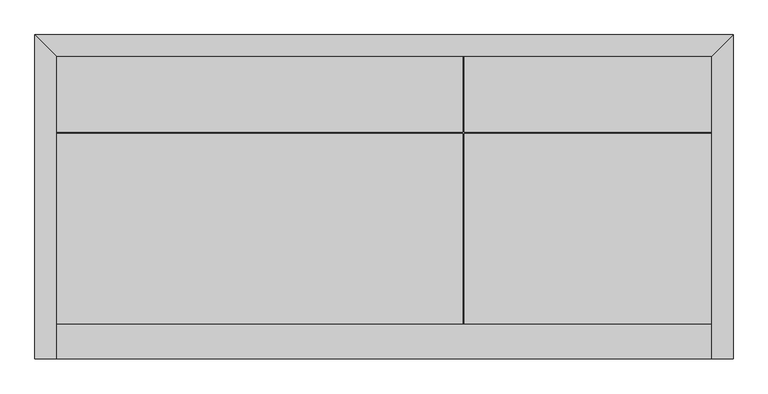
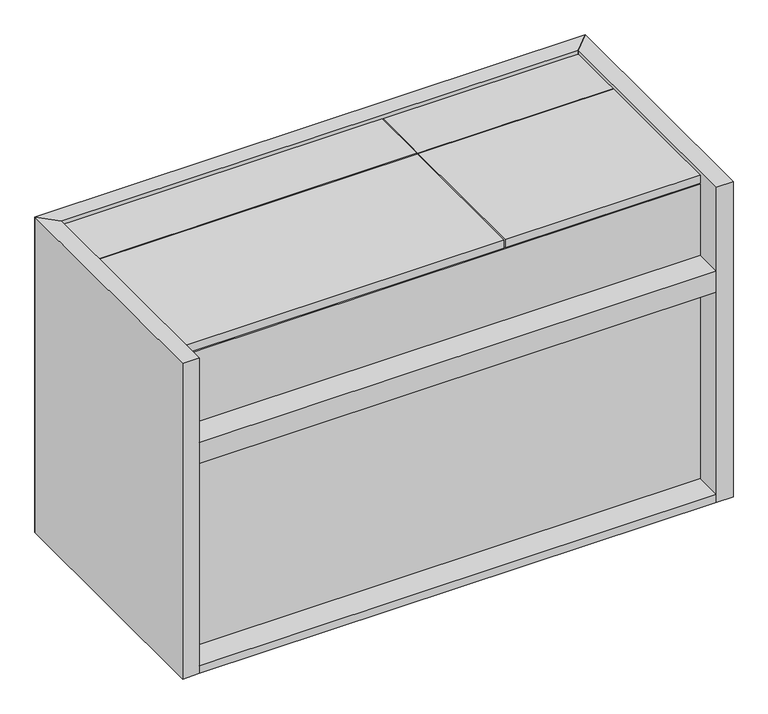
"""IFC4 building model written with IfcOpenShell, lengths in millimetres: proxy geometry, AERO^OFFICE 3_30x48x23 RIGHT PED-PARTS SOLID."""

import ifcopenshell
import ifcopenshell.guid

model = None  # the IFC model being written
_history = None  # IfcOwnerHistory: only IFC2X3 demands one
_inside = {}  # id of a spatial element -> (the spatial element, [elements in it])
_under = {}  # id of a project, library or spatial element -> (it, [spatial elements below it])
_declared = {}  # id of a project -> (the project, [libraries it declares])
_typed = {}  # id of a type object -> (the type object, [elements of that type])
_made_of = {}  # id of a material, layer set ... -> (it, [elements and type objects made of it])


def new_model(schema):
    """Start an empty IFC model of exactly this schema.

    Asked for "IFC4X3", IfcOpenShell would pick the latest addendum, in which some entities
    have other attributes; the version numbers below select the first issue.
    IFC2X3 requires an IfcOwnerHistory on every rooted entity: one is made here for all.
    """
    global model, _history
    if schema == "IFC4X3":
        model = ifcopenshell.file(schema_version=(4, 3, 0, 0))
    else:
        model = ifcopenshell.file(schema=schema)
    _inside.clear()
    _under.clear()
    _declared.clear()
    _typed.clear()
    _made_of.clear()
    _history = None
    if model.schema == "IFC2X3":
        org = make("IfcOrganization", Name="unknown")
        user = make(
            "IfcPersonAndOrganization",
            ThePerson=make("IfcPerson", FamilyName="unknown"),
            TheOrganization=org,
        )
        app = make(
            "IfcApplication",
            ApplicationDeveloper=org,
            Version="unknown",
            ApplicationFullName="unknown",
            ApplicationIdentifier="unknown",
        )
        _history = make(
            "IfcOwnerHistory",
            OwningUser=user,
            OwningApplication=app,
            ChangeAction="ADDED",
            CreationDate=0,
        )
    return model


def make(cls, **values):
    """One entity of the class cls with the attributes given. An attribute that is None is left unset."""
    return model.create_entity(
        cls, **{name: value for name, value in values.items() if value is not None}
    )


def rooted(cls, **values):
    """An entity with a GlobalId (a new one), such as an element, a storey or a relation."""
    return make(cls, GlobalId=ifcopenshell.guid.new(), OwnerHistory=_history, **values)


def si_unit(unit_type, name, prefix=None):
    """IfcSIUnit, for example si_unit("LENGTHUNIT", "METRE", prefix="MILLI")."""
    return make("IfcSIUnit", UnitType=unit_type, Prefix=prefix, Name=name)


def assignment(units):
    """IfcUnitAssignment: the units of a project."""
    return None if units is None else make("IfcUnitAssignment", Units=units)


def point(xyz):
    """IfcCartesianPoint."""
    return None if xyz is None else make("IfcCartesianPoint", Coordinates=xyz)


def direction(xyz):
    """IfcDirection."""
    return None if xyz is None else make("IfcDirection", DirectionRatios=xyz)


def frame(location, z_axis=None, x_axis=None):
    """IfcAxis2Placement3D, a coordinate frame: its origin and axes. An axis left out is left unset."""
    return make(
        "IfcAxis2Placement3D",
        Location=point(location),
        Axis=direction(z_axis),
        RefDirection=direction(x_axis),
    )


def origin():
    """The frame at (0, 0, 0) with its axes left unset."""
    return frame((0.0, 0.0, 0.0))


def origin_with_axes():
    """The frame at (0, 0, 0) with the z axis (0, 0, 1) and the x axis (1, 0, 0) written out."""
    return frame((0.0, 0.0, 0.0), z_axis=(0.0, 0.0, 1.0), x_axis=(1.0, 0.0, 0.0))


def place(relative_to, where):
    """IfcLocalPlacement: puts the frame where relative to a parent placement (None: the world)."""
    return make(
        "IfcLocalPlacement", PlacementRelTo=relative_to, RelativePlacement=where
    )


def context(
    kind, dimensions, precision=None, world=None, true_north=None, identifier=None
):
    """IfcGeometricRepresentationContext, for example the 3D "Model" context."""
    return make(
        "IfcGeometricRepresentationContext",
        ContextIdentifier=identifier,
        ContextType=kind,
        CoordinateSpaceDimension=dimensions,
        Precision=precision,
        WorldCoordinateSystem=world,
        TrueNorth=true_north,
    )


def project(units=None, contexts=None):
    """IfcProject with its units and contexts."""
    return rooted(
        "IfcProject",
        Name="project",
        RepresentationContexts=contexts,
        UnitsInContext=assignment(units),
    )


def spatial(cls, under=None, at=None, **own):
    """A site, building, storey or space (cls), placed at a placement, below another one or the project."""
    s = rooted(cls, ObjectPlacement=at, **own)
    if under is not None:
        _under.setdefault(under.id(), (under, []))[1].append(s)
    return s


def polyline(points):
    """IfcPolyline through the points."""
    return make("IfcPolyline", Points=[point(p) for p in points])


def outline(outer, holes=None, kind="AREA"):
    """IfcArbitraryClosedProfileDef: a profile drawn as a closed curve; with holes, ...WithVoids."""
    if holes is None:
        return make("IfcArbitraryClosedProfileDef", ProfileType=kind, OuterCurve=outer)
    return make(
        "IfcArbitraryProfileDefWithVoids",
        ProfileType=kind,
        OuterCurve=outer,
        InnerCurves=holes,
    )


def extrude(swept, where, along, depth):
    """IfcExtrudedAreaSolid: the profile swept, set in the frame where, extruded along a direction by depth."""
    return make(
        "IfcExtrudedAreaSolid",
        SweptArea=swept,
        Position=where,
        ExtrudedDirection=direction(along),
        Depth=depth,
    )


def shape(context_of_items, identifier, shape_type, items):
    """IfcShapeRepresentation: the items that make up one representation, for example the "Body"."""
    return make(
        "IfcShapeRepresentation",
        ContextOfItems=context_of_items,
        RepresentationIdentifier=identifier,
        RepresentationType=shape_type,
        Items=items,
    )


def source(mapping_origin, context_of_items, identifier, shape_type, items):
    """IfcRepresentationMap: a shape defined once, which mapped items show again and again."""
    return make(
        "IfcRepresentationMap",
        MappingOrigin=mapping_origin,
        MappedRepresentation=shape(context_of_items, identifier, shape_type, items),
    )


def transform(
    local_origin,
    x_axis=None,
    y_axis=None,
    z_axis=None,
    scale=None,
    scale2=None,
    scale3=None,
    uniform=True,
):
    """IfcCartesianTransformationOperator3D, or its non-uniform kind. x_axis, y_axis, z_axis: its Axis1, 2, 3."""
    if uniform:
        return make(
            "IfcCartesianTransformationOperator3D",
            Axis1=direction(x_axis),
            Axis2=direction(y_axis),
            LocalOrigin=point(local_origin),
            Scale=scale,
            Axis3=direction(z_axis),
        )
    return make(
        "IfcCartesianTransformationOperator3DnonUniform",
        Axis1=direction(x_axis),
        Axis2=direction(y_axis),
        LocalOrigin=point(local_origin),
        Scale=scale,
        Axis3=direction(z_axis),
        Scale2=scale2,
        Scale3=scale3,
    )


def mapped(mapping_source, mapping_target):
    """IfcMappedItem: shows the shape of a source again, moved by a transform."""
    return make(
        "IfcMappedItem", MappingSource=mapping_source, MappingTarget=mapping_target
    )


def made_of(thing, what):
    """Note that an element or type object is made of a material, layer set ...; save() writes the relation."""
    if what is not None:
        _made_of.setdefault(what.id(), (what, []))[1].append(thing)
    return thing


def element(
    cls,
    number,
    at=None,
    inside=None,
    cuts=None,
    type_object=None,
    material=None,
    context=None,
    identifier="Body",
    shape_type=None,
    held_by="IfcProductDefinitionShape",
    body=None,
    shapes=None,
    **own,
):
    """One element of the class cls, such as IfcWall. Its Tag is "e" and its number.

    at: its placement. inside: the storey or other place that contains it. cuts: it is an
    opening in that element (IfcRelVoidsElement). A single representation is given by context,
    identifier, shape_type and body (its items); several are given by shapes. held_by: the class
    of the entity that holds the representations. save() writes the other relations.
    """
    e = rooted(cls, Tag="e%d" % number, ObjectPlacement=at, **own)
    if body is not None:
        shapes = [shape(context, identifier, shape_type, body)]
    if shapes is not None:
        e.Representation = make(held_by, Representations=shapes)
    if inside is not None:
        _inside.setdefault(inside.id(), (inside, []))[1].append(e)
    if cuts is not None:
        rooted(
            "IfcRelVoidsElement", RelatingBuildingElement=cuts, RelatedOpeningElement=e
        )
    if type_object is not None:
        _typed.setdefault(type_object.id(), (type_object, []))[1].append(e)
    return made_of(e, material)


def aggregate(whole, parts):
    """IfcRelAggregates: a whole, such as a stair, and the parts it consists of."""
    return rooted("IfcRelAggregates", RelatingObject=whole, RelatedObjects=parts)


def save(model, path):
    """Write the relations noted so far, then the file.

    IfcRelAggregates (storeys below a building ...), IfcRelContainedInSpatialStructure (elements
    in a storey), IfcRelDefinesByType, IfcRelAssociatesMaterial and IfcRelDeclares: one each for
    every whole, place, type object, material and project.
    """
    for whole, parts in _under.values():
        aggregate(whole, parts)
    for where, things in _inside.values():
        rooted(
            "IfcRelContainedInSpatialStructure",
            RelatedElements=things,
            RelatingStructure=where,
        )
    for kind, things in _typed.values():
        rooted("IfcRelDefinesByType", RelatedObjects=things, RelatingType=kind)
    for what, things in _made_of.values():
        rooted("IfcRelAssociatesMaterial", RelatedObjects=things, RelatingMaterial=what)
    for by, libraries in _declared.values():
        rooted("IfcRelDeclares", RelatingContext=by, RelatedDefinitions=libraries)
    model.write(path)


def generic_models_a6173da6(model_context):
    return source(origin(), model_context, "Body", "SweptSolid", [
        extrude(outline(polyline([(4438.65, 82.55), (4419.6, 82.55), (4419.6, 546.1), (4438.65, 546.1), (4438.65, 82.55)])), frame((0.0, 0.0, 19.05), z_axis=(0.0, 0.0, 1.0), x_axis=(1.0, 0.0, 0.0)), (0.0, 0.0, 1.0), 711.2),
        extrude(outline(polyline([(4876.8, 82.55), (4876.8, 63.5), (3695.7, 63.5), (3695.7, 82.55), (4876.8, 82.55)])), frame((0.0, 0.0, 19.05), z_axis=(0.0, 0.0, 1.0), x_axis=(1.0, 0.0, 0.0)), (0.0, 0.0, 1.0), 711.2),
        extrude(outline(polyline([(3657.6, 584.2), (3695.7, 546.1), (3695.7, 0.0), (3657.6, 0.0), (3657.6, 584.2)])), origin_with_axes(), (0.0, 0.0, 1.0), 762.0),
        extrude(outline(polyline([(4428.33125, 408.78125), (3686.175, 408.78125), (3686.175, 555.625), (4428.33125, 555.625), (4428.33125, 408.78125)])), frame((0.0, 0.0, 733.425), z_axis=(0.0, 0.0, 1.0), x_axis=(1.0, 0.0, 0.0)), (0.0, 0.0, 1.0), 19.05),
        extrude(outline(polyline([(4876.8, 546.1), (3695.7, 546.1), (3657.6, 584.2), (4914.9, 584.2), (4876.8, 546.1)])), origin_with_axes(), (0.0, 0.0, 1.0), 762.0),
        extrude(outline(polyline([(3686.175, 63.5), (3686.175, 406.4), (4428.33125, 406.4), (4428.33125, 63.5), (3686.175, 63.5)])), frame((0.0, 0.0, 733.425), z_axis=(0.0, 0.0, 1.0), x_axis=(1.0, 0.0, 0.0)), (0.0, 0.0, 1.0), 19.05),
        extrude(outline(polyline([(4876.8, 546.1), (4914.9, 584.2), (4914.9, 0.0), (4876.8, 0.0), (4876.8, 546.1)])), origin_with_axes(), (0.0, 0.0, 1.0), 762.0),
        extrude(outline(polyline([(3695.7, 0.0), (3695.7, 546.1), (4876.8, 546.1), (4876.8, 0.0), (3695.7, 0.0)])), origin_with_axes(), (0.0, 0.0, 1.0), 19.05),
        extrude(outline(polyline([(4886.325, 406.4), (4886.325, 63.5), (4430.7125, 63.5), (4430.7125, 406.4), (4886.325, 406.4)])), frame((0.0, 0.0, 733.425), z_axis=(0.0, 0.0, 1.0), x_axis=(1.0, 0.0, 0.0)), (0.0, 0.0, 1.0), 19.05),
        extrude(outline(polyline([(4430.7125, 408.78125), (4430.7125, 555.625), (4886.325, 555.625), (4886.325, 408.78125), (4430.7125, 408.78125)])), frame((0.0, 0.0, 733.425), z_axis=(0.0, 0.0, 1.0), x_axis=(1.0, 0.0, 0.0)), (0.0, 0.0, 1.0), 19.05),
        extrude(outline(polyline([(3695.7, 0.0), (3695.7, 63.5), (4876.8, 63.5), (4876.8, 0.0), (3695.7, 0.0)])), frame((0.0, 0.0, 508.0), z_axis=(0.0, 0.0, 1.0), x_axis=(1.0, 0.0, 0.0)), (0.0, 0.0, 1.0), 50.8),
    ])


if __name__ == "__main__":
    model = new_model("IFC4")
    model_context = context("Model", 3, world=origin())
    ifc_project = project(units=[si_unit("LENGTHUNIT", "METRE", prefix="MILLI")], contexts=[model_context])
    site = spatial("IfcSite", under=ifc_project)
    building = spatial("IfcBuilding", under=site)
    placement = place(None, origin())
    generic_models_shape = generic_models_a6173da6(model_context)
    element("IfcBuildingElementProxy", 1, Name="AERO^OFFICE 3_30x48x23 RIGHT PED-PARTS SOLID", ObjectType="AERO^OFFICE 3_30x48x23 RIGHT PED-PARTS SOLID", at=placement, inside=building, context=model_context, shape_type="MappedRepresentation", body=[
        mapped(generic_models_shape, transform((0.0, 0.0, 0.0), x_axis=(1.0, 0.0, 0.0), y_axis=(0.0, 1.0, 0.0), z_axis=(0.0, 0.0, 1.0))),
    ])
    save(model, "model.ifc")
